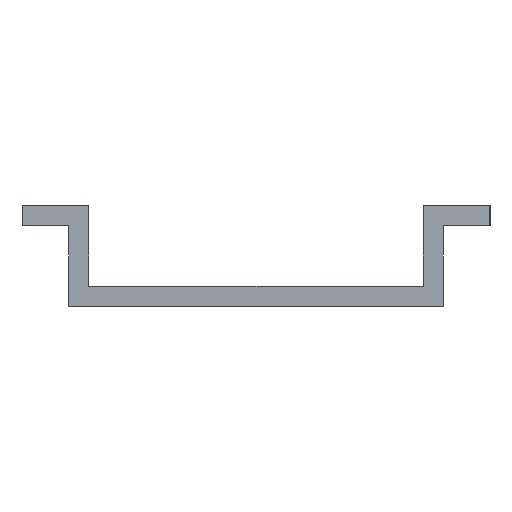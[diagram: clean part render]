
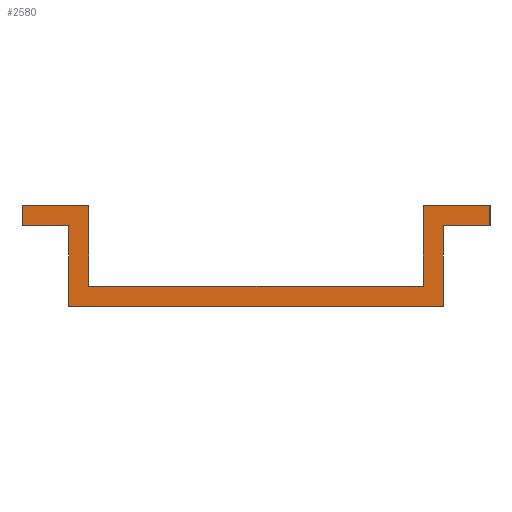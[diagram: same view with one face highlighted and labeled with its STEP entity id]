
A CAD part, left-side view. The second image highlights one B-rep face of the part: STEP entity #2580.
In plain terms, the highlighted planar face has unit normal (-1, 0, 0).
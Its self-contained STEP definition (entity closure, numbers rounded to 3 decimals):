
#135=PLANE('',#2817);
#259=FACE_OUTER_BOUND('',#437,.T.);
#437=EDGE_LOOP('',(#2383,#2384,#2385,#2386,#2387,#2388,#2389,#2390,#2391,
#2392,#2393,#2394));
#767=LINE('',#4197,#1023);
#779=LINE('',#4228,#1035);
#781=LINE('',#4232,#1037);
#783=LINE('',#4236,#1039);
#785=LINE('',#4240,#1041);
#787=LINE('',#4244,#1043);
#790=LINE('',#4250,#1046);
#793=LINE('',#4256,#1049);
#796=LINE('',#4262,#1052);
#799=LINE('',#4268,#1055);
#802=LINE('',#4274,#1058);
#804=LINE('',#4277,#1060);
#1023=VECTOR('',#3465,28.);
#1035=VECTOR('',#3495,6.);
#1037=VECTOR('',#3499,3.5);
#1039=VECTOR('',#3503,1.5);
#1041=VECTOR('',#3507,5.);
#1043=VECTOR('',#3511,6.);
#1046=VECTOR('',#3516,25.);
#1049=VECTOR('',#3521,6.);
#1052=VECTOR('',#3526,5.);
#1055=VECTOR('',#3531,1.5);
#1058=VECTOR('',#3536,3.5);
#1060=VECTOR('',#3540,6.);
#1279=VERTEX_POINT('',#4194);
#1280=VERTEX_POINT('',#4196);
#1290=VERTEX_POINT('',#4226);
#1291=VERTEX_POINT('',#4230);
#1292=VERTEX_POINT('',#4234);
#1293=VERTEX_POINT('',#4238);
#1294=VERTEX_POINT('',#4242);
#1296=VERTEX_POINT('',#4248);
#1298=VERTEX_POINT('',#4254);
#1300=VERTEX_POINT('',#4260);
#1302=VERTEX_POINT('',#4266);
#1304=VERTEX_POINT('',#4272);
#1629=EDGE_CURVE('',#1279,#1280,#767,.T.);
#1645=EDGE_CURVE('',#1290,#1279,#779,.T.);
#1647=EDGE_CURVE('',#1291,#1290,#781,.T.);
#1649=EDGE_CURVE('',#1292,#1291,#783,.T.);
#1651=EDGE_CURVE('',#1293,#1292,#785,.T.);
#1653=EDGE_CURVE('',#1294,#1293,#787,.T.);
#1656=EDGE_CURVE('',#1296,#1294,#790,.T.);
#1659=EDGE_CURVE('',#1298,#1296,#793,.T.);
#1662=EDGE_CURVE('',#1300,#1298,#796,.T.);
#1665=EDGE_CURVE('',#1302,#1300,#799,.T.);
#1668=EDGE_CURVE('',#1304,#1302,#802,.T.);
#1670=EDGE_CURVE('',#1280,#1304,#804,.T.);
#2383=ORIENTED_EDGE('',*,*,#1629,.F.);
#2384=ORIENTED_EDGE('',*,*,#1645,.F.);
#2385=ORIENTED_EDGE('',*,*,#1647,.F.);
#2386=ORIENTED_EDGE('',*,*,#1649,.F.);
#2387=ORIENTED_EDGE('',*,*,#1651,.F.);
#2388=ORIENTED_EDGE('',*,*,#1653,.F.);
#2389=ORIENTED_EDGE('',*,*,#1656,.F.);
#2390=ORIENTED_EDGE('',*,*,#1659,.F.);
#2391=ORIENTED_EDGE('',*,*,#1662,.F.);
#2392=ORIENTED_EDGE('',*,*,#1665,.F.);
#2393=ORIENTED_EDGE('',*,*,#1668,.F.);
#2394=ORIENTED_EDGE('',*,*,#1670,.F.);
#2580=ADVANCED_FACE('',(#259),#135,.F.);
#2817=AXIS2_PLACEMENT_3D('',#4278,#3541,#3542);
#3465=DIRECTION('',(0.,1.,0.));
#3495=DIRECTION('',(0.,0.,-1.));
#3499=DIRECTION('',(0.,1.,0.));
#3503=DIRECTION('',(0.,0.,-1.));
#3507=DIRECTION('',(0.,-1.,0.));
#3511=DIRECTION('',(0.,0.,1.));
#3516=DIRECTION('',(0.,-1.,0.));
#3521=DIRECTION('',(0.,0.,-1.));
#3526=DIRECTION('',(0.,-1.,0.));
#3531=DIRECTION('',(0.,0.,1.));
#3536=DIRECTION('',(0.,1.,0.));
#3540=DIRECTION('',(0.,0.,1.));
#3541=DIRECTION('center_axis',(1.,0.,0.));
#3542=DIRECTION('ref_axis',(0.,0.,-1.));
#4194=CARTESIAN_POINT('',(0.,-14.,0.));
#4196=CARTESIAN_POINT('',(0.,14.,0.));
#4197=CARTESIAN_POINT('',(0.,0.,0.));
#4226=CARTESIAN_POINT('',(0.,-14.,6.));
#4228=CARTESIAN_POINT('',(0.,-14.,6.));
#4230=CARTESIAN_POINT('',(0.,-17.5,6.));
#4232=CARTESIAN_POINT('',(0.,-17.5,6.));
#4234=CARTESIAN_POINT('',(0.,-17.5,7.5));
#4236=CARTESIAN_POINT('',(0.,-17.5,7.5));
#4238=CARTESIAN_POINT('',(0.,-12.5,7.5));
#4240=CARTESIAN_POINT('',(0.,-12.5,7.5));
#4242=CARTESIAN_POINT('',(0.,-12.5,1.5));
#4244=CARTESIAN_POINT('',(0.,-12.5,1.5));
#4248=CARTESIAN_POINT('',(0.,12.5,1.5));
#4250=CARTESIAN_POINT('',(0.,12.5,1.5));
#4254=CARTESIAN_POINT('',(0.,12.5,7.5));
#4256=CARTESIAN_POINT('',(0.,12.5,7.5));
#4260=CARTESIAN_POINT('',(0.,17.5,7.5));
#4262=CARTESIAN_POINT('',(0.,17.5,7.5));
#4266=CARTESIAN_POINT('',(0.,17.5,6.));
#4268=CARTESIAN_POINT('',(0.,17.5,6.));
#4272=CARTESIAN_POINT('',(0.,14.,6.));
#4274=CARTESIAN_POINT('',(0.,14.,6.));
#4277=CARTESIAN_POINT('',(0.,14.,0.));
#4278=CARTESIAN_POINT('Origin',(0.,0.,2.729));
